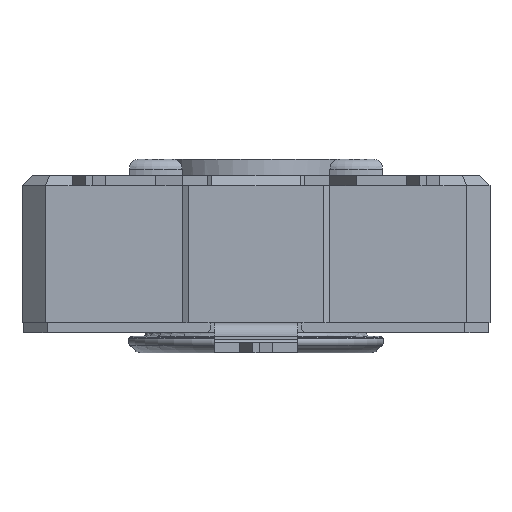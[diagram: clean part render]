
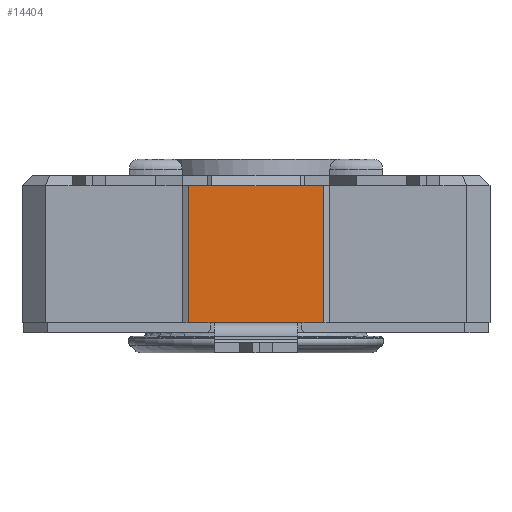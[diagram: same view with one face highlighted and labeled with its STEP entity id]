
A CAD part, front view. The second image highlights one B-rep face of the part: STEP entity #14404.
In plain terms, the highlighted planar face has unit normal (0, -1, 0).
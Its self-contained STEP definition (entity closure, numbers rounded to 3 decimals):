
#1311=FACE_OUTER_BOUND('',#2055,.T.);
#2055=EDGE_LOOP('',(#12314,#12315,#12316,#12317,#12318,#12319,#12320,#12321));
#2353=LINE('',#19929,#3925);
#2567=LINE('',#20773,#4139);
#2953=LINE('',#21738,#4525);
#2963=LINE('',#21761,#4535);
#3251=LINE('',#22680,#4823);
#3572=LINE('',#23379,#5144);
#3621=LINE('',#23481,#5193);
#3623=LINE('',#23484,#5195);
#3925=VECTOR('',#16149,10.);
#4139=VECTOR('',#16789,10.);
#4525=VECTOR('',#17491,10.);
#4535=VECTOR('',#17505,10.);
#4823=VECTOR('',#18233,10.);
#5144=VECTOR('',#18904,10.);
#5193=VECTOR('',#19051,10.);
#5195=VECTOR('',#19055,10.);
#5467=VERTEX_POINT('',#19926);
#5468=VERTEX_POINT('',#19928);
#5702=VERTEX_POINT('',#20771);
#5703=VERTEX_POINT('',#20772);
#6016=VERTEX_POINT('',#21736);
#6027=VERTEX_POINT('',#21760);
#6298=VERTEX_POINT('',#22679);
#6485=VERTEX_POINT('',#23378);
#6858=EDGE_CURVE('',#5468,#5467,#2353,.T.);
#7201=EDGE_CURVE('',#5702,#5703,#2567,.T.);
#7644=EDGE_CURVE('',#6016,#5702,#2953,.T.);
#7655=EDGE_CURVE('',#5703,#6027,#2963,.T.);
#8052=EDGE_CURVE('',#5468,#6298,#3251,.T.);
#8397=EDGE_CURVE('',#6485,#6298,#3572,.T.);
#8447=EDGE_CURVE('',#6016,#6485,#3621,.T.);
#8449=EDGE_CURVE('',#6027,#5467,#3623,.T.);
#12314=ORIENTED_EDGE('',*,*,#8052,.F.);
#12315=ORIENTED_EDGE('',*,*,#6858,.T.);
#12316=ORIENTED_EDGE('',*,*,#8449,.F.);
#12317=ORIENTED_EDGE('',*,*,#7655,.F.);
#12318=ORIENTED_EDGE('',*,*,#7201,.F.);
#12319=ORIENTED_EDGE('',*,*,#7644,.F.);
#12320=ORIENTED_EDGE('',*,*,#8447,.T.);
#12321=ORIENTED_EDGE('',*,*,#8397,.T.);
#12996=PLANE('',#15465);
#14404=ADVANCED_FACE('',(#1311),#12996,.T.);
#15465=AXIS2_PLACEMENT_3D('',#23483,#19053,#19054);
#16149=DIRECTION('',(-1.,0.,0.));
#16789=DIRECTION('',(-1.,0.,0.));
#17491=DIRECTION('',(-1.,0.,0.));
#17505=DIRECTION('',(-1.,0.,0.));
#18233=DIRECTION('',(1.,0.,0.));
#18904=DIRECTION('',(-1.,0.,0.));
#19051=DIRECTION('',(0.,0.,1.));
#19053=DIRECTION('center_axis',(0.,-1.,0.));
#19054=DIRECTION('ref_axis',(0.,0.,-1.));
#19055=DIRECTION('',(0.,0.,1.));
#19926=CARTESIAN_POINT('',(-2.027,-7.05,1.875));
#19928=CARTESIAN_POINT('',(-1.325,-7.05,1.875));
#19929=CARTESIAN_POINT('',(-0.913,-7.05,1.875));
#20771=CARTESIAN_POINT('',(1.25,-7.05,-2.225));
#20772=CARTESIAN_POINT('',(-1.25,-7.05,-2.225));
#20773=CARTESIAN_POINT('',(2.027,-7.05,-2.225));
#21736=CARTESIAN_POINT('',(2.027,-7.05,-2.225));
#21738=CARTESIAN_POINT('',(2.027,-7.05,-2.225));
#21760=CARTESIAN_POINT('',(-2.027,-7.05,-2.225));
#21761=CARTESIAN_POINT('',(2.027,-7.05,-2.225));
#22679=CARTESIAN_POINT('',(1.325,-7.05,1.875));
#22680=CARTESIAN_POINT('',(1.013,-7.05,1.875));
#23378=CARTESIAN_POINT('',(2.027,-7.05,1.875));
#23379=CARTESIAN_POINT('',(2.936,-7.05,1.875));
#23481=CARTESIAN_POINT('',(2.027,-7.05,-2.225));
#23483=CARTESIAN_POINT('Origin',(2.027,-7.05,-2.225));
#23484=CARTESIAN_POINT('',(-2.027,-7.05,-2.225));
